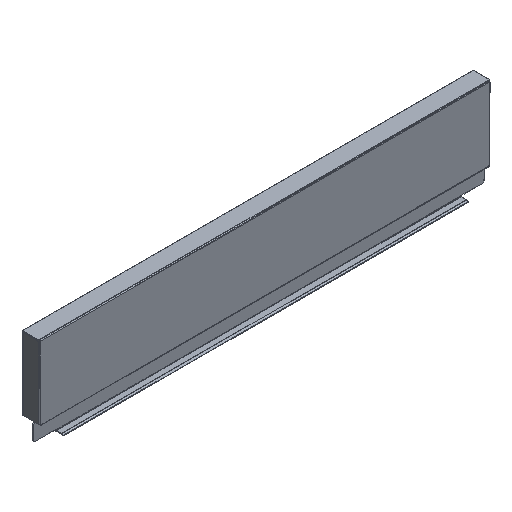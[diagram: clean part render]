
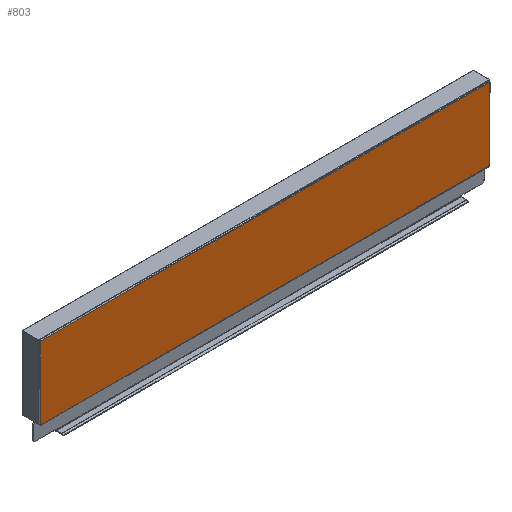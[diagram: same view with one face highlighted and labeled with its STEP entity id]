
A CAD part, isometric view. The second image highlights one B-rep face of the part: STEP entity #803.
In plain terms, the highlighted planar face has unit normal (0, -1, 0).
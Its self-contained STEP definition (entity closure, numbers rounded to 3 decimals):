
#327 = CARTESIAN_POINT ( 'NONE',  ( 204., -6., 82.5 ) ) ;
#336 = CARTESIAN_POINT ( 'NONE',  ( 204., -6., 17.5 ) ) ;
#342 = CARTESIAN_POINT ( 'NONE',  ( 203.5, -6., 17. ) ) ;
#347 = CARTESIAN_POINT ( 'NONE',  ( 203.5, -6., 17.5 ) ) ;
#355 = CARTESIAN_POINT ( 'NONE',  ( -203.5, -6., 17.5 ) ) ;
#368 = CARTESIAN_POINT ( 'NONE',  ( -203.5, -6., 17. ) ) ;
#371 = CARTESIAN_POINT ( 'NONE',  ( -204., -6., 82.5 ) ) ;
#380 = CARTESIAN_POINT ( 'NONE',  ( -204., -6., 83. ) ) ;
#383 = CARTESIAN_POINT ( 'NONE',  ( 204., -6., 83. ) ) ;
#396 = CARTESIAN_POINT ( 'NONE',  ( -204., -6., 17.5 ) ) ;
#495 = VERTEX_POINT ( 'NONE', #396 ) ;
#508 = VERTEX_POINT ( 'NONE', #383 ) ;
#510 = VERTEX_POINT ( 'NONE', #380 ) ;
#519 = VERTEX_POINT ( 'NONE', #371 ) ;
#521 = VERTEX_POINT ( 'NONE', #368 ) ;
#534 = VERTEX_POINT ( 'NONE', #355 ) ;
#542 = VERTEX_POINT ( 'NONE', #347 ) ;
#547 = VERTEX_POINT ( 'NONE', #342 ) ;
#553 = VERTEX_POINT ( 'NONE', #336 ) ;
#560 = VERTEX_POINT ( 'NONE', #327 ) ;
#680 = AXIS2_PLACEMENT_3D ( 'NONE', #1587, #1585, #1584 ) ;
#803 = ADVANCED_FACE ( 'NONE', ( #2136 ), #1588, .T. ) ;
#847 = EDGE_CURVE ( 'NONE', #534, #521, #2181, .T. ) ;
#848 = EDGE_CURVE ( 'NONE', #521, #547, #2183, .T. ) ;
#850 = EDGE_CURVE ( 'NONE', #547, #542, #2185, .T. ) ;
#851 = EDGE_CURVE ( 'NONE', #542, #553, #2188, .T. ) ;
#852 = EDGE_CURVE ( 'NONE', #560, #553, #2190, .T. ) ;
#853 = EDGE_CURVE ( 'NONE', #508, #560, #2192, .T. ) ;
#854 = EDGE_CURVE ( 'NONE', #510, #508, #2194, .T. ) ;
#855 = EDGE_CURVE ( 'NONE', #510, #519, #2196, .T. ) ;
#1001 = EDGE_LOOP ( 'NONE', ( #1952, #1951, #1950, #1949, #1948, #1947, #1946, #1945, #1944, #1943 ) ) ;
#1236 = CARTESIAN_POINT ( 'NONE',  ( -204., -6., 101.385 ) ) ;
#1237 = DIRECTION ( 'NONE',  ( 0., 0., -1. ) ) ;
#1238 = CARTESIAN_POINT ( 'NONE',  ( -205., -6., 17.5 ) ) ;
#1239 = DIRECTION ( 'NONE',  ( 1., 0., 0. ) ) ;
#1471 = DIRECTION ( 'NONE',  ( 0., 0., -1. ) ) ;
#1472 = CARTESIAN_POINT ( 'NONE',  ( -204., -6., 101.385 ) ) ;
#1473 = DIRECTION ( 'NONE',  ( 1., 0., 0. ) ) ;
#1474 = CARTESIAN_POINT ( 'NONE',  ( -205., -6., 83. ) ) ;
#1476 = DIRECTION ( 'NONE',  ( 0., 0., -1. ) ) ;
#1477 = CARTESIAN_POINT ( 'NONE',  ( 204., -6., 101.385 ) ) ;
#1479 = DIRECTION ( 'NONE',  ( 0., 0., -1. ) ) ;
#1480 = CARTESIAN_POINT ( 'NONE',  ( 204., -6., 101.385 ) ) ;
#1482 = DIRECTION ( 'NONE',  ( 1., 0., 0. ) ) ;
#1483 = CARTESIAN_POINT ( 'NONE',  ( 203.5, -6., 17.5 ) ) ;
#1484 = DIRECTION ( 'NONE',  ( 0., 0., 1. ) ) ;
#1486 = CARTESIAN_POINT ( 'NONE',  ( 203.5, -6., 15.3 ) ) ;
#1492 = DIRECTION ( 'NONE',  ( 1., 0., 0. ) ) ;
#1493 = CARTESIAN_POINT ( 'NONE',  ( -205., -6., 17. ) ) ;
#1494 = DIRECTION ( 'NONE',  ( 0., 0., -1. ) ) ;
#1495 = CARTESIAN_POINT ( 'NONE',  ( -203.5, -6., 17.5 ) ) ;
#1584 = DIRECTION ( 'NONE',  ( 1., 0., 0. ) ) ;
#1585 = DIRECTION ( 'NONE',  ( 0., -1., 0. ) ) ;
#1587 = CARTESIAN_POINT ( 'NONE',  ( -205., -6., 17. ) ) ;
#1588 = PLANE ( 'NONE',  #680 ) ;
#1683 = EDGE_CURVE ( 'NONE', #519, #495, #2401, .T. ) ;
#1684 = EDGE_CURVE ( 'NONE', #495, #534, #2403, .T. ) ;
#1943 = ORIENTED_EDGE ( 'NONE', *, *, #855, .T. ) ;
#1944 = ORIENTED_EDGE ( 'NONE', *, *, #854, .F. ) ;
#1945 = ORIENTED_EDGE ( 'NONE', *, *, #853, .F. ) ;
#1946 = ORIENTED_EDGE ( 'NONE', *, *, #852, .F. ) ;
#1947 = ORIENTED_EDGE ( 'NONE', *, *, #851, .T. ) ;
#1948 = ORIENTED_EDGE ( 'NONE', *, *, #850, .T. ) ;
#1949 = ORIENTED_EDGE ( 'NONE', *, *, #848, .T. ) ;
#1950 = ORIENTED_EDGE ( 'NONE', *, *, #847, .T. ) ;
#1951 = ORIENTED_EDGE ( 'NONE', *, *, #1684, .T. ) ;
#1952 = ORIENTED_EDGE ( 'NONE', *, *, #1683, .T. ) ;
#2136 = FACE_OUTER_BOUND ( 'NONE', #1001, .T. ) ;
#2181 = LINE ( 'NONE', #1495, #2182 ) ;
#2182 = VECTOR ( 'NONE', #1494, 1000. ) ;
#2183 = LINE ( 'NONE', #1493, #2184 ) ;
#2184 = VECTOR ( 'NONE', #1492, 1000. ) ;
#2185 = LINE ( 'NONE', #1486, #2187 ) ;
#2187 = VECTOR ( 'NONE', #1484, 1000. ) ;
#2188 = LINE ( 'NONE', #1483, #2189 ) ;
#2189 = VECTOR ( 'NONE', #1482, 1000. ) ;
#2190 = LINE ( 'NONE', #1480, #2191 ) ;
#2191 = VECTOR ( 'NONE', #1479, 1000. ) ;
#2192 = LINE ( 'NONE', #1477, #2193 ) ;
#2193 = VECTOR ( 'NONE', #1476, 1000. ) ;
#2194 = LINE ( 'NONE', #1474, #2195 ) ;
#2195 = VECTOR ( 'NONE', #1473, 1000. ) ;
#2196 = LINE ( 'NONE', #1472, #2197 ) ;
#2197 = VECTOR ( 'NONE', #1471, 1000. ) ;
#2401 = LINE ( 'NONE', #1236, #2402 ) ;
#2402 = VECTOR ( 'NONE', #1237, 1000. ) ;
#2403 = LINE ( 'NONE', #1238, #2404 ) ;
#2404 = VECTOR ( 'NONE', #1239, 1000. ) ;
